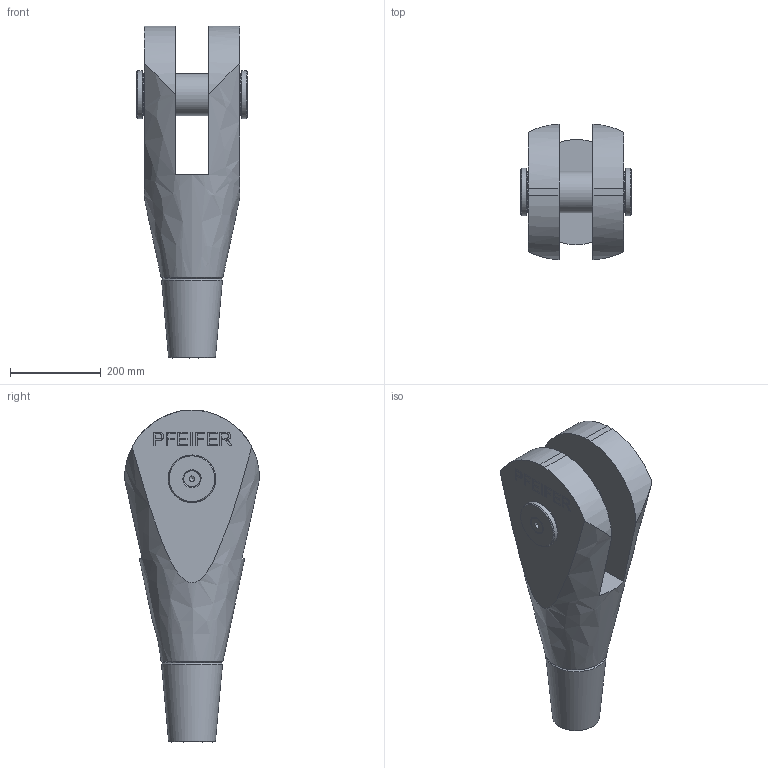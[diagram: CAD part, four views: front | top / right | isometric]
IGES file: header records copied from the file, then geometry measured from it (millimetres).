
Global section: file name: 520-090-GAK; native system: Autodesk Inventor 2016; preprocessor: unknown; author: Administrator; date: 20200625.080615; units: centimetre
Bounding box: 244 x 298.31 x 732.73 mm (x, y, z)
Volume: 17992981.2 mm3; surface area: 787679 mm2
Topology: 2 solids, 6 shells, 207 faces, 553 edges, 379 vertices
Faces by surface type: bspline 207
